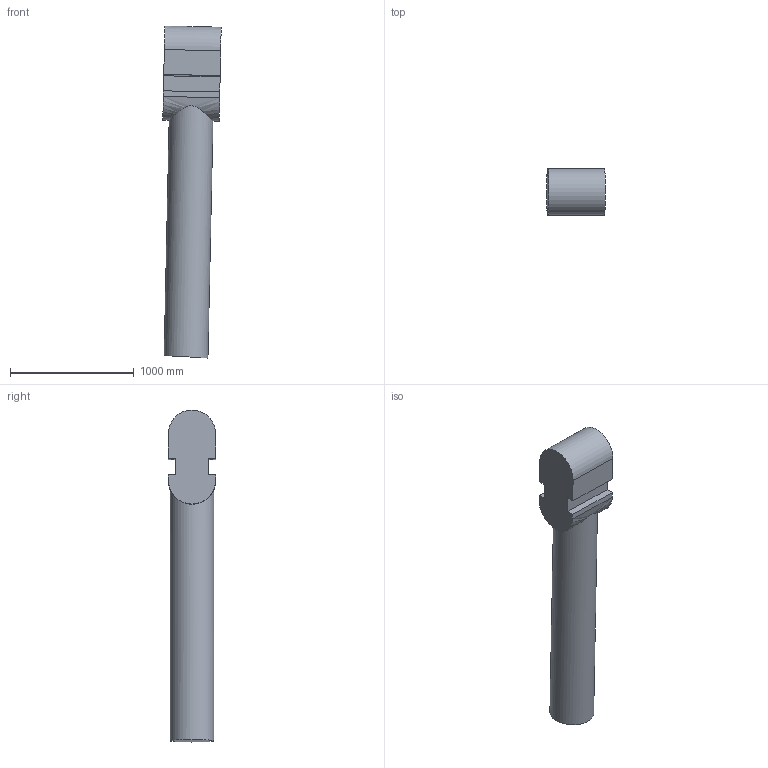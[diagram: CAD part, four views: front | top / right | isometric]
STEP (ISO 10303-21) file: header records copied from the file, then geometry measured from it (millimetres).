
FILE_DESCRIPTION(/* description */ (''),/* implementation_level */ '2;1');
FILE_NAME(/* name */ '14x22_mast_in_tunnel_1deg_mod.stp',/* time_stamp */ '2022-08-22T14:20:37-04:00',/* author */ (''),/* organization */ (''),/* preprocessor_version */ 'ST-DEVELOPER v16',/* originating_system */ 'SIEMENS PLM Software NX 10.0',/* authorisation */ '');
FILE_SCHEMA (('AP203_CONFIGURATION_CONTROLLED_3D_DESIGN_OF_MECHANICAL_PARTS_AND_ASSEMBLIES_MIM_LF { 1 0 10303 403 2 1 2}'));
Length unit declared in the file: millimetre
Products named in the file (1): sbry4E4082DFvl3m
Bounding box: 471.54 x 380.63 x 2680.78 mm (x, y, z)
Volume: 300885113.2 mm3; surface area: 3640704.2 mm2
Topology: 1 solids, 1 shells, 18 faces, 46 edges, 31 vertices
Faces by surface type: plane 12, cylinder 3, bspline 3
Full cylindrical faces by diameter (mm): 354.33 x1
Entity records: 888 total; most frequent: CARTESIAN_POINT 372, ORIENTED_EDGE 88, DIRECTION 82, EDGE_CURVE 44, LINE 34, VECTOR 34, VERTEX_POINT 30, AXIS2_PLACEMENT_3D 24
